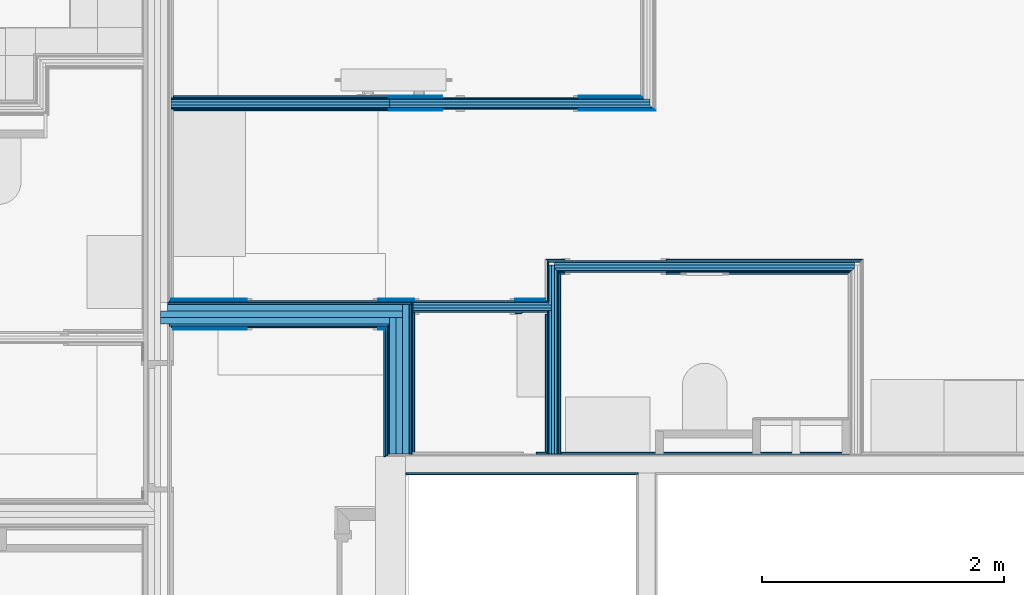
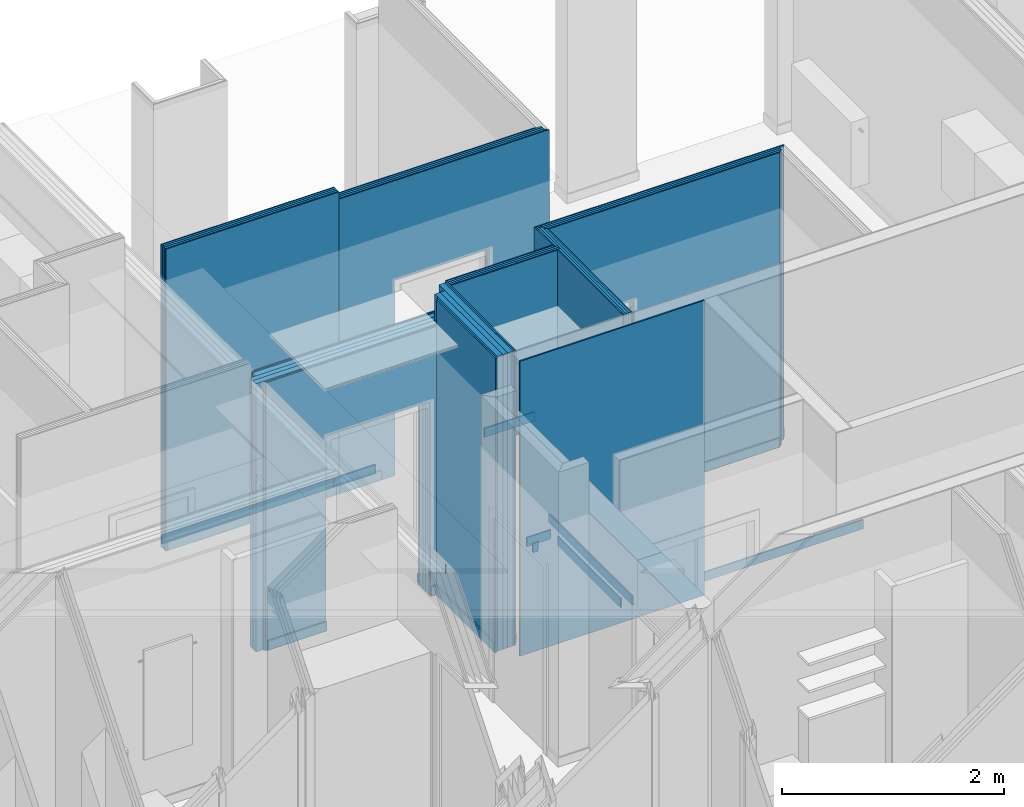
# One storey, part 19 of 65: 56 building element parts, 5 openings, 8 elements without a shape of their own.
"""IFC2X3 building model written with IfcOpenShell, lengths in metres."""

from ifc_helpers import new_model, entity, si_unit, converted_unit, derived_unit, money_unit, direction, frame, frame_2d, origin_with_axes, place, context, subcontext, project, spatial, polyline, rectangle, outline, extrude, material, type_object, element, aggregate, save


model = new_model("IFC2X3")

# Units and contexts
model_context = context("Model", 3, precision=1e-05, world=origin_with_axes(), true_north=direction((0.0, 1.0)))
body_context = subcontext(model_context, "Body", "Model", "MODEL_VIEW", scale=1.0)
ifc_project = project(units=[si_unit("LENGTHUNIT", "METRE"), si_unit("AREAUNIT", "SQUARE_METRE"), si_unit("VOLUMEUNIT", "CUBIC_METRE"), si_unit("ABSORBEDDOSEUNIT", "GRAY"), si_unit("AMOUNTOFSUBSTANCEUNIT", "MOLE"), si_unit("DOSEEQUIVALENTUNIT", "SIEVERT"), si_unit("ELECTRICCAPACITANCEUNIT", "FARAD"), si_unit("ELECTRICCHARGEUNIT", "COULOMB"), si_unit("ELECTRICCONDUCTANCEUNIT", "SIEMENS"), si_unit("ELECTRICCURRENTUNIT", "AMPERE"), si_unit("ELECTRICRESISTANCEUNIT", "OHM"), si_unit("ELECTRICVOLTAGEUNIT", "VOLT"), si_unit("ENERGYUNIT", "JOULE"), si_unit("FORCEUNIT", "NEWTON"), si_unit("FREQUENCYUNIT", "HERTZ"), si_unit("ILLUMINANCEUNIT", "LUX"), si_unit("INDUCTANCEUNIT", "HENRY"), si_unit("LUMINOUSFLUXUNIT", "LUMEN"), si_unit("LUMINOUSINTENSITYUNIT", "CANDELA"), si_unit("MAGNETICFLUXDENSITYUNIT", "TESLA"), si_unit("MAGNETICFLUXUNIT", "WEBER"), si_unit("MASSUNIT", "GRAM"), converted_unit("PLANEANGLEUNIT", "degree", entity("IfcReal", 0.0174532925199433), si_unit("PLANEANGLEUNIT", "RADIAN"), dimensions=[0, 0, 0, 0, 0, 0, 0]), si_unit("POWERUNIT", "WATT"), si_unit("PRESSUREUNIT", "PASCAL"), si_unit("RADIOACTIVITYUNIT", "BECQUEREL"), si_unit("SOLIDANGLEUNIT", "STERADIAN"), si_unit("THERMODYNAMICTEMPERATUREUNIT", "KELVIN"), si_unit("TIMEUNIT", "SECOND"), derived_unit("ACCELERATIONUNIT", [(si_unit("LENGTHUNIT", "METRE"), 1), (si_unit("TIMEUNIT", "SECOND"), -2)]), derived_unit("ANGULARVELOCITYUNIT", [(converted_unit("PLANEANGLEUNIT", "degree", entity("IfcReal", 0.0174532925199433), si_unit("PLANEANGLEUNIT", "RADIAN"), dimensions=[0, 0, 0, 0, 0, 0, 0]), 1), (si_unit("TIMEUNIT", "SECOND"), -1)]), derived_unit("CURVATUREUNIT", [(converted_unit("PLANEANGLEUNIT", "degree", entity("IfcReal", 0.0174532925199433), si_unit("PLANEANGLEUNIT", "RADIAN"), dimensions=[0, 0, 0, 0, 0, 0, 0]), 1), (si_unit("LENGTHUNIT", "METRE"), -1)]), derived_unit("DYNAMICVISCOSITYUNIT", [(si_unit("PRESSUREUNIT", "PASCAL"), 1), (si_unit("TIMEUNIT", "SECOND"), 1)]), derived_unit("HEATFLUXDENSITYUNIT", [(si_unit("POWERUNIT", "WATT"), 1), (si_unit("LENGTHUNIT", "METRE"), -2)]), derived_unit("HEATINGVALUEUNIT", [(si_unit("ENERGYUNIT", "JOULE"), 1), (si_unit("MASSUNIT", "GRAM"), -1)]), derived_unit("INTEGERCOUNTRATEUNIT", [(si_unit("TIMEUNIT", "SECOND"), -1)]), derived_unit("IONCONCENTRATIONUNIT", [(si_unit("MASSUNIT", "GRAM"), 1), (si_unit("VOLUMEUNIT", "CUBIC_METRE"), -1)]), derived_unit("ISOTHERMALMOISTURECAPACITYUNIT", [(si_unit("VOLUMEUNIT", "CUBIC_METRE"), 1), (si_unit("MASSUNIT", "GRAM"), -1)]), derived_unit("KINEMATICVISCOSITYUNIT", [(si_unit("AREAUNIT", "SQUARE_METRE"), 1), (si_unit("TIMEUNIT", "SECOND"), -1)]), derived_unit("LINEARFORCEUNIT", [(si_unit("FORCEUNIT", "NEWTON"), 1), (si_unit("LENGTHUNIT", "METRE"), -1)]), derived_unit("LINEARMOMENTUNIT", [(si_unit("FORCEUNIT", "NEWTON"), 1), (si_unit("LENGTHUNIT", "METRE"), -1)]), derived_unit("LINEARSTIFFNESSUNIT", [(si_unit("FORCEUNIT", "NEWTON"), 1), (si_unit("LENGTHUNIT", "METRE"), -1)]), derived_unit("LINEARVELOCITYUNIT", [(si_unit("LENGTHUNIT", "METRE"), 1), (si_unit("TIMEUNIT", "SECOND"), -1)]), derived_unit("LUMINOUSINTENSITYDISTRIBUTIONUNIT", [(si_unit("LUMINOUSINTENSITYUNIT", "CANDELA"), 1), (si_unit("LUMINOUSFLUXUNIT", "LUMEN"), -1)]), derived_unit("MASSDENSITYUNIT", [(si_unit("MASSUNIT", "GRAM"), 1), (si_unit("VOLUMEUNIT", "CUBIC_METRE"), -1)]), derived_unit("MASSFLOWRATEUNIT", [(si_unit("MASSUNIT", "GRAM"), 1), (si_unit("TIMEUNIT", "SECOND"), -1)]), derived_unit("MASSPERLENGTHUNIT", [(si_unit("MASSUNIT", "GRAM"), 1), (si_unit("LENGTHUNIT", "METRE"), -1)]), derived_unit("MODULUSOFELASTICITYUNIT", [(si_unit("FORCEUNIT", "NEWTON"), 1), (si_unit("AREAUNIT", "SQUARE_METRE"), -1)]), derived_unit("MODULUSOFLINEARSUBGRADEREACTIONUNIT", [(si_unit("FORCEUNIT", "NEWTON"), 1), (si_unit("LENGTHUNIT", "METRE"), -2)]), derived_unit("MODULUSOFROTATIONALSUBGRADEREACTIONUNIT", [(si_unit("FORCEUNIT", "NEWTON"), 1), (si_unit("LENGTHUNIT", "METRE"), 1)]), derived_unit("MODULUSOFSUBGRADEREACTIONUNIT", [(si_unit("FORCEUNIT", "NEWTON"), 1), (si_unit("VOLUMEUNIT", "CUBIC_METRE"), -1)]), derived_unit("MOISTUREDIFFUSIVITYUNIT", [(si_unit("VOLUMEUNIT", "CUBIC_METRE"), 1), (si_unit("TIMEUNIT", "SECOND"), -1)]), derived_unit("MOLECULARWEIGHTUNIT", [(si_unit("MASSUNIT", "GRAM"), 1), (si_unit("AMOUNTOFSUBSTANCEUNIT", "MOLE"), -1)]), derived_unit("PLANARFORCEUNIT", [(si_unit("FORCEUNIT", "NEWTON"), 1), (si_unit("LENGTHUNIT", "METRE"), -2)]), derived_unit("ROTATIONALFREQUENCYUNIT", [(si_unit("TIMEUNIT", "SECOND"), -1)]), derived_unit("ROTATIONALMASSUNIT", [(si_unit("MASSUNIT", "GRAM"), 1), (si_unit("LENGTHUNIT", "METRE"), 2)]), derived_unit("ROTATIONALSTIFFNESSUNIT", [(si_unit("FORCEUNIT", "NEWTON"), 1), (si_unit("LENGTHUNIT", "METRE"), 1), (converted_unit("PLANEANGLEUNIT", "degree", entity("IfcReal", 0.0174532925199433), si_unit("PLANEANGLEUNIT", "RADIAN"), dimensions=[0, 0, 0, 0, 0, 0, 0]), -1)]), derived_unit("SECTIONAREAINTEGRALUNIT", [(si_unit("LENGTHUNIT", "METRE"), 5)]), derived_unit("SECTIONMODULUSUNIT", [(si_unit("LENGTHUNIT", "METRE"), 3)]), derived_unit("SHEARMODULUSUNIT", [(si_unit("FORCEUNIT", "NEWTON"), 1), (si_unit("AREAUNIT", "SQUARE_METRE"), -1)]), derived_unit("SOUNDPOWERUNIT", [(si_unit("ENERGYUNIT", "JOULE"), 1), (si_unit("TIMEUNIT", "SECOND"), -1)]), derived_unit("SPECIFICHEATCAPACITYUNIT", [(si_unit("FORCEUNIT", "NEWTON"), 1), (si_unit("MASSUNIT", "GRAM"), -1), (si_unit("THERMODYNAMICTEMPERATUREUNIT", "KELVIN"), -1)]), derived_unit("TEMPERATUREGRADIENTUNIT", [(si_unit("THERMODYNAMICTEMPERATUREUNIT", "KELVIN"), 1), (si_unit("LENGTHUNIT", "METRE"), -1)]), derived_unit("THERMALADMITTANCEUNIT", [(si_unit("POWERUNIT", "WATT"), 1), (si_unit("AREAUNIT", "SQUARE_METRE"), -1), (si_unit("THERMODYNAMICTEMPERATUREUNIT", "KELVIN"), -1)]), derived_unit("THERMALCONDUCTANCEUNIT", [(si_unit("POWERUNIT", "WATT"), 1), (si_unit("LENGTHUNIT", "METRE"), -1), (si_unit("THERMODYNAMICTEMPERATUREUNIT", "KELVIN"), -1)]), derived_unit("THERMALEXPANSIONCOEFFICIENTUNIT", [(si_unit("THERMODYNAMICTEMPERATUREUNIT", "KELVIN"), -1)]), derived_unit("THERMALRESISTANCEUNIT", [(si_unit("AREAUNIT", "SQUARE_METRE"), 1), (si_unit("POWERUNIT", "WATT"), -1)]), derived_unit("THERMALTRANSMITTANCEUNIT", [(si_unit("POWERUNIT", "WATT"), 1), (si_unit("AREAUNIT", "SQUARE_METRE"), -1), (si_unit("THERMODYNAMICTEMPERATUREUNIT", "KELVIN"), -1)]), derived_unit("TORQUEUNIT", [(si_unit("FORCEUNIT", "NEWTON"), 1), (si_unit("LENGTHUNIT", "METRE"), 1)]), derived_unit("VAPORPERMEABILITYUNIT", [(si_unit("MASSUNIT", "GRAM"), 1), (si_unit("TIMEUNIT", "SECOND"), -1)]), derived_unit("VOLUMETRICFLOWRATEUNIT", [(si_unit("VOLUMEUNIT", "CUBIC_METRE"), 1), (si_unit("TIMEUNIT", "SECOND"), -1)]), derived_unit("WARPINGCONSTANTUNIT", [(si_unit("LENGTHUNIT", "METRE"), 6)]), derived_unit("WARPINGMOMENTUNIT", [(si_unit("FORCEUNIT", "NEWTON"), 1), (si_unit("LENGTHUNIT", "METRE"), 2)]), money_unit("GBP")], contexts=[model_context])

# Site, building, storey
site_placement = place(None, origin_with_axes())
site = spatial("IfcSite", under=ifc_project, at=site_placement, Name="Site", CompositionType="ELEMENT")
building_placement = place(site_placement, origin_with_axes())
building = spatial("IfcBuilding", under=site, at=building_placement, Name="Building01", CompositionType="ELEMENT")
storey_placement = place(building_placement, frame((0.0, 0.0, 8.64), z_axis=(0.0, 0.0, 1.0), x_axis=(1.0, 0.0, 0.0)))
storey = spatial("IfcBuildingStorey", under=building, at=storey_placement, Name="2F", CompositionType="ELEMENT", Elevation=8.64)

# Wall, opening, building element parts
wall_type_1 = type_object("IfcWallType", Name="SHE_A-Walls_Type05a_Partition_95mm_tall", PredefinedType="NOTDEFINED")
wall_1_placement = place(storey_placement, frame((10.453871, 10.355, 0.0), z_axis=(0.0, 0.0, 1.0), x_axis=(1.0, 0.0, 0.0)))
wall_1 = element("IfcWall", 1, at=wall_1_placement, inside=storey, type_object=wall_type_1, Name="5A", ObjectType="SHE_A-Walls_Type05a_Partition_95mm_tall")
opening_1_placement = place(wall_1_placement, frame((0.086065, -0.05, 0.0), z_axis=(0.0, 0.0, 1.0), x_axis=(1.0, 0.0, 0.0)))
element("IfcOpeningElement", 2, at=opening_1_placement, cuts=wall_1, Name="Opening", ObjectType="Opening", context=body_context, shape_type="SweptSolid", body=[
    extrude(rectangle(XDim=0.834, YDim=2.142, at=frame_2d((-0.417, 1.071), x_axis=(1.0, 0.0))), frame((0.0, 0.0, 0.0), z_axis=(0.0, 1.0, 0.0), x_axis=(-1.0, 0.0, 0.0)), (0.0, 0.0, 1.0), 0.125),
])
ifc_material_1 = material(Name="A_BSUK_Walls_Timber")
placement_1 = place(wall_1_placement, origin_with_axes())
building_element_part_1 = element("IfcBuildingElementPart", 3, at=placement_1, material=ifc_material_1, Name="1", context=body_context, shape_type="SweptSolid", body=[
    extrude(outline(polyline([(2.439714, -0.035), (0.035, -0.035), (0.05, -0.05), (2.424714, -0.05), (2.439714, -0.035)])), frame((0.0, 0.0, 0.015), z_axis=(0.0, 0.0, 1.0), x_axis=(1.0, 0.0, 0.0)), (0.0, 0.0, 1.0), 0.1),
])
ifc_material_2 = material(Name="A_BSUK_WallInternal_Finishes_Plasterboard")
building_element_part_2 = element("IfcBuildingElementPart", 4, at=placement_1, material=ifc_material_2, Name="2", context=body_context, shape_type="SweptSolid", body=[
    extrude(outline(polyline([(2.451714, -0.023), (0.023, -0.023), (0.035, -0.035), (2.439714, -0.035), (2.451714, -0.023)])), origin_with_axes(), (0.0, 0.0, 1.0), 3.24),
])
ifc_material_3 = material(Name="Air Cavity")
building_element_part_3 = element("IfcBuildingElementPart", 5, at=placement_1, material=ifc_material_3, Name="3", context=body_context, shape_type="SweptSolid", body=[
    extrude(outline(polyline([(2.474714, 0.0), (0.0, 0.0), (0.023, -0.023), (2.451714, -0.023), (2.474714, 0.0)])), origin_with_axes(), (0.0, 0.0, 1.0), 3.24),
])
ifc_material_4 = material(Name="A_BSUK_Insulation")
building_element_part_4 = element("IfcBuildingElementPart", 6, at=placement_1, material=ifc_material_4, Name="4", context=body_context, shape_type="SweptSolid", body=[
    extrude(rectangle(XDim=2.474714, YDim=0.025, at=frame_2d((1.237357, 0.0125), x_axis=(-1.0, 0.0))), origin_with_axes(), (0.0, 0.0, 1.0), 3.24),
])
building_element_part_5 = element("IfcBuildingElementPart", 7, at=placement_1, material=ifc_material_3, Name="5", context=body_context, shape_type="SweptSolid", body=[
    extrude(rectangle(XDim=2.474714, YDim=0.023, at=frame_2d((1.237357, 0.0365), x_axis=(-1.0, 0.0))), origin_with_axes(), (0.0, 0.0, 1.0), 3.24),
])
building_element_part_6 = element("IfcBuildingElementPart", 8, at=placement_1, material=ifc_material_2, Name="6", context=body_context, shape_type="SweptSolid", body=[
    extrude(outline(polyline([(2.534714, 0.06), (-0.06, 0.06), (-0.048, 0.048), (2.522714, 0.048), (2.534714, 0.06)])), origin_with_axes(), (0.0, 0.0, 1.0), 3.24),
])
building_element_part_7 = element("IfcBuildingElementPart", 9, at=placement_1, material=ifc_material_1, Name="7", context=body_context, shape_type="SweptSolid", body=[
    extrude(outline(polyline([(2.549714, 0.075), (-0.075, 0.075), (-0.06, 0.06), (2.534714, 0.06), (2.549714, 0.075)])), frame((0.0, 0.0, 0.015), z_axis=(0.0, 0.0, 1.0), x_axis=(1.0, 0.0, 0.0)), (0.0, 0.0, 1.0), 0.1),
])
aggregate(wall_1, [building_element_part_1, building_element_part_2, building_element_part_3, building_element_part_4, building_element_part_5, building_element_part_6, building_element_part_7])

# Wall, openings, building element parts
wall_type_2 = type_object("IfcWallType", Name="SHE_A-Walls_Type01c_Partywall_225mm_twin_tall", PredefinedType="NOTDEFINED")
wall_2_placement = place(storey_placement, frame((9.197, 9.949704, 0.0), z_axis=(0.0, 0.0, 1.0), x_axis=(-1.0, 0.0, 0.0)))
wall_2 = element("IfcWall", 10, at=wall_2_placement, inside=storey, type_object=wall_type_2, Name="1C", ObjectType="SHE_A-Walls_Type01c_Partywall_225mm_twin_tall")
opening_2_placement = place(wall_2_placement, frame((-0.931871, -0.153, 0.0), z_axis=(0.0, 0.0, 1.0), x_axis=(1.0, 0.0, 0.0)))
element("IfcOpeningElement", 11, at=opening_2_placement, cuts=wall_2, Name="Opening", ObjectType="Recess", context=body_context, shape_type="SweptSolid", body=[
    extrude(rectangle(XDim=2.142, YDim=0.834, at=frame_2d((-0.417, 1.071), x_axis=(0.0, -1.0))), frame((0.0, 0.0, 0.0), z_axis=(0.0, 1.0, 0.0), x_axis=(-1.0, 0.0, 0.0)), (0.0, 0.0, 1.0), 0.015),
])
opening_3_placement = place(wall_2_placement, frame((0.200331, -0.153, 0.0), z_axis=(0.0, 0.0, 1.0), x_axis=(1.0, 0.0, 0.0)))
element("IfcOpeningElement", 12, at=opening_3_placement, cuts=wall_2, Name="Opening", ObjectType="Opening", context=body_context, shape_type="SweptSolid", body=[
    extrude(rectangle(XDim=1.084, YDim=2.142, at=frame_2d((-0.542, 1.071), x_axis=(-1.0, 0.0))), frame((0.0, 0.0, 0.0), z_axis=(0.0, 1.0, 0.0), x_axis=(-1.0, 0.0, 0.0)), (0.0, 0.0, 1.0), 0.255),
])
placement_2 = place(wall_2_placement, origin_with_axes())
building_element_part_8 = element("IfcBuildingElementPart", 13, at=placement_2, material=ifc_material_1, Name="1", context=body_context, shape_type="SweptSolid", body=[
    extrude(outline(polyline([(1.907331, -0.138), (-0.088, -0.138), (-0.103, -0.153), (1.907331, -0.153), (1.907331, -0.138)])), frame((0.0, 0.0, 0.015), z_axis=(0.0, 0.0, 1.0), x_axis=(1.0, 0.0, 0.0)), (0.0, 0.0, 1.0), 0.1),
])
building_element_part_9 = element("IfcBuildingElementPart", 14, at=placement_2, material=ifc_material_2, Name="2", context=body_context, shape_type="SweptSolid", body=[
    extrude(rectangle(XDim=2.010331, YDim=0.015, at=frame_2d((0.917166, -0.1305), x_axis=(-1.0, 0.0))), origin_with_axes(), (0.0, 0.0, 1.0), 2.95),
])
building_element_part_10 = element("IfcBuildingElementPart", 15, at=placement_2, material=ifc_material_2, Name="3", context=body_context, shape_type="SweptSolid", body=[
    extrude(rectangle(XDim=2.010331, YDim=0.015, at=frame_2d((0.932166, -0.1155), x_axis=(-1.0, 0.0))), origin_with_axes(), (0.0, 0.0, 1.0), 2.95),
])
building_element_part_11 = element("IfcBuildingElementPart", 16, at=placement_2, material=ifc_material_3, Name="4", context=body_context, shape_type="SweptSolid", body=[
    extrude(rectangle(XDim=2.010331, YDim=0.058, at=frame_2d((0.932166, -0.079), x_axis=(-1.0, 0.0))), origin_with_axes(), (0.0, 0.0, 1.0), 2.95),
])
building_element_part_12 = element("IfcBuildingElementPart", 17, at=placement_2, material=ifc_material_4, Name="5", context=body_context, shape_type="SweptSolid", body=[
    extrude(rectangle(XDim=1.995331, YDim=0.05, at=frame_2d((0.997666, -0.025), x_axis=(-1.0, 0.0))), origin_with_axes(), (0.0, 0.0, 1.0), 2.95),
])
building_element_part_13 = element("IfcBuildingElementPart", 18, at=placement_2, material=ifc_material_3, Name="6", context=body_context, shape_type="SweptSolid", body=[
    extrude(rectangle(XDim=1.995331, YDim=0.057, at=frame_2d((0.997666, 0.0285), x_axis=(-1.0, 0.0))), origin_with_axes(), (0.0, 0.0, 1.0), 2.95),
])
building_element_part_14 = element("IfcBuildingElementPart", 19, at=placement_2, material=ifc_material_2, Name="7", context=body_context, shape_type="SweptSolid", body=[
    extrude(outline(polyline([(1.922331, 0.072), (0.122, 0.072), (0.107, 0.057), (1.922331, 0.057), (1.922331, 0.072)])), origin_with_axes(), (0.0, 0.0, 1.0), 2.95),
])
building_element_part_15 = element("IfcBuildingElementPart", 20, at=placement_2, material=ifc_material_2, Name="8", context=body_context, shape_type="SweptSolid", body=[
    extrude(outline(polyline([(1.907331, 0.087), (0.137, 0.087), (0.122, 0.072), (1.907331, 0.072), (1.907331, 0.087)])), origin_with_axes(), (0.0, 0.0, 1.0), 2.95),
])
building_element_part_16 = element("IfcBuildingElementPart", 21, at=placement_2, material=ifc_material_1, Name="9", context=body_context, shape_type="SweptSolid", body=[
    extrude(outline(polyline([(1.892331, 0.102), (0.152, 0.102), (0.137, 0.087), (1.892331, 0.087), (1.892331, 0.102)])), frame((0.0, 0.0, 0.015), z_axis=(0.0, 0.0, 1.0), x_axis=(1.0, 0.0, 0.0)), (0.0, 0.0, 1.0), 0.1),
])
aggregate(wall_2, [building_element_part_8, building_element_part_9, building_element_part_10, building_element_part_11, building_element_part_12, building_element_part_13, building_element_part_14, building_element_part_15, building_element_part_16])

# Wall, building element parts
wall_3_placement = place(storey_placement, frame((9.09, 11.703124, 0.0), z_axis=(0.0, 0.0, 1.0), x_axis=(-1.0, 0.0, 0.0)))
wall_3 = element("IfcWall", 22, at=wall_3_placement, inside=storey, type_object=wall_type_1, Name="5A", ObjectType="SHE_A-Walls_Type05a_Partition_95mm_tall")
placement_3 = place(wall_3_placement, origin_with_axes())
building_element_part_17 = element("IfcBuildingElementPart", 23, at=placement_3, material=ifc_material_1, Name="1", context=body_context, shape_type="SweptSolid", body=[
    extrude(rectangle(XDim=1.785331, YDim=0.015, at=frame_2d((0.892666, -0.0675), x_axis=(-1.0, 0.0))), frame((0.0, 0.0, 0.015), z_axis=(0.0, 0.0, 1.0), x_axis=(1.0, 0.0, 0.0)), (0.0, 0.0, 1.0), 0.1),
])
building_element_part_18 = element("IfcBuildingElementPart", 24, at=placement_3, material=ifc_material_2, Name="2", context=body_context, shape_type="SweptSolid", body=[
    extrude(rectangle(XDim=1.800331, YDim=0.012, at=frame_2d((0.900166, -0.054), x_axis=(1.0, 0.0))), origin_with_axes(), (0.0, 0.0, 1.0), 3.32),
])
building_element_part_19 = element("IfcBuildingElementPart", 25, at=placement_3, material=ifc_material_3, Name="3", context=body_context, shape_type="SweptSolid", body=[
    extrude(rectangle(XDim=1.800331, YDim=0.023, at=frame_2d((0.900166, -0.0365), x_axis=(1.0, 0.0))), origin_with_axes(), (0.0, 0.0, 1.0), 3.32),
])
building_element_part_20 = element("IfcBuildingElementPart", 26, at=placement_3, material=ifc_material_4, Name="4", context=body_context, shape_type="SweptSolid", body=[
    extrude(rectangle(XDim=1.800331, YDim=0.025, at=frame_2d((0.900166, -0.0125), x_axis=(1.0, 0.0))), origin_with_axes(), (0.0, 0.0, 1.0), 3.32),
])
building_element_part_21 = element("IfcBuildingElementPart", 27, at=placement_3, material=ifc_material_3, Name="5", context=body_context, shape_type="SweptSolid", body=[
    extrude(rectangle(XDim=1.800331, YDim=0.023, at=frame_2d((0.900166, 0.0115), x_axis=(1.0, 0.0))), origin_with_axes(), (0.0, 0.0, 1.0), 3.32),
])
building_element_part_22 = element("IfcBuildingElementPart", 28, at=placement_3, material=ifc_material_2, Name="6", context=body_context, shape_type="SweptSolid", body=[
    extrude(rectangle(XDim=1.800331, YDim=0.012, at=frame_2d((0.900166, 0.029), x_axis=(1.0, 0.0))), origin_with_axes(), (0.0, 0.0, 1.0), 3.32),
])
building_element_part_23 = element("IfcBuildingElementPart", 29, at=placement_3, material=ifc_material_1, Name="7", context=body_context, shape_type="SweptSolid", body=[
    extrude(rectangle(XDim=1.785331, YDim=0.015, at=frame_2d((0.892666, 0.0425), x_axis=(-1.0, 0.0))), frame((0.0, 0.0, 0.015), z_axis=(0.0, 0.0, 1.0), x_axis=(1.0, 0.0, 0.0)), (0.0, 0.0, 1.0), 0.1),
])
aggregate(wall_3, [building_element_part_17, building_element_part_18, building_element_part_19, building_element_part_20, building_element_part_21, building_element_part_22, building_element_part_23])

# Wall, opening, building element parts
wall_4_placement = place(storey_placement, frame((9.09, 11.703124, 0.0), z_axis=(0.0, 0.0, 1.0), x_axis=(1.0, 0.0, 0.0)))
wall_4 = element("IfcWall", 30, at=wall_4_placement, inside=storey, type_object=wall_type_1, Name="5A", ObjectType="SHE_A-Walls_Type05a_Partition_95mm_tall")
opening_4_placement = place(wall_4_placement, frame((0.579, -0.05, -0.015), z_axis=(0.0, 0.0, 1.0), x_axis=(1.0, 0.0, 0.0)))
element("IfcOpeningElement", 31, at=opening_4_placement, cuts=wall_4, Name="Opening", ObjectType="Opening", context=body_context, shape_type="SweptSolid", body=[
    extrude(outline(polyline([(-0.042, 0.0), (-0.042, 0.015), (0.0, 0.015), (0.0, 2.157), (-0.984, 2.157), (-0.984, 0.015), (-0.840883, 0.015), (-0.840883, 0.0), (-0.042, 0.0)])), frame((0.0, 0.0, 0.0), z_axis=(0.0, 1.0, 0.0), x_axis=(-1.0, 0.0, 0.0)), (0.0, 0.0, 1.0), 0.125),
    extrude(outline(polyline([(-0.942, 0.015), (-0.942, 0.0), (-0.042, 0.0), (-0.042, 0.015), (0.0, 0.015), (0.0, 2.157), (-0.984, 2.157), (-0.984, 0.015), (-0.942, 0.015)])), frame((0.0, 0.015, 0.0), z_axis=(0.0, 1.0, 0.0), x_axis=(-1.0, 0.0, 0.0)), (0.0, 0.0, 1.0), 0.012),
    extrude(outline(polyline([(0.0, 2.142), (0.0, 2.157), (-0.984, 2.157), (-0.984, 0.015), (-0.840883, 0.015), (-0.840883, 0.0), (0.143117, 0.0), (0.143117, 2.142), (0.0, 2.142)])), frame((0.0, 0.0, 0.0), z_axis=(0.0, 1.0, 0.0), x_axis=(-1.0, 0.0, 0.0)), (0.0, 0.0, 1.0), 0.015),
    extrude(outline(polyline([(-0.942, 0.015), (-0.942, 0.0), (-0.042, 0.0), (-0.042, 0.015), (0.0, 0.015), (0.0, 2.157), (-0.984, 2.157), (-0.984, 0.015), (-0.942, 0.015)])), frame((0.0, 0.027, 0.0), z_axis=(0.0, 1.0, 0.0), x_axis=(-1.0, 0.0, 0.0)), (0.0, 0.0, 1.0), 0.023),
    extrude(outline(polyline([(-0.942, 0.015), (-0.942, 0.0), (-0.042, 0.0), (-0.042, 0.015), (0.0, 0.015), (0.0, 2.157), (-0.984, 2.157), (-0.984, 0.015), (-0.942, 0.015)])), frame((0.0, 0.05, 0.0), z_axis=(0.0, 1.0, 0.0), x_axis=(-1.0, 0.0, 0.0)), (0.0, 0.0, 1.0), 0.025),
    extrude(outline(polyline([(-0.942, 0.015), (-0.942, 0.0), (-0.042, 0.0), (-0.042, 0.015), (0.0, 0.015), (0.0, 2.157), (-0.984, 2.157), (-0.984, 0.015), (-0.942, 0.015)])), frame((0.0, 0.075, 0.0), z_axis=(0.0, 1.0, 0.0), x_axis=(-1.0, 0.0, 0.0)), (0.0, 0.0, 1.0), 0.023),
    extrude(outline(polyline([(-0.942, 0.015), (-0.942, 0.0), (-0.042, 0.0), (-0.042, 0.015), (0.0, 0.015), (0.0, 2.157), (-0.984, 2.157), (-0.984, 0.015), (-0.942, 0.015)])), frame((0.0, 0.098, 0.0), z_axis=(0.0, 1.0, 0.0), x_axis=(-1.0, 0.0, 0.0)), (0.0, 0.0, 1.0), 0.012),
    extrude(outline(polyline([(-0.840883, 0.015), (-0.840883, 0.0), (0.143117, 0.0), (0.143117, 2.142), (0.0, 2.142), (0.0, 2.157), (-0.984, 2.157), (-0.984, 0.015), (-0.840883, 0.015)])), frame((0.0, 0.11, 0.0), z_axis=(0.0, 1.0, 0.0), x_axis=(-1.0, 0.0, 0.0)), (0.0, 0.0, 1.0), 0.015),
])
placement_4 = place(wall_4_placement, origin_with_axes())
building_element_part_24 = element("IfcBuildingElementPart", 32, at=placement_4, material=ifc_material_1, Name="1", context=body_context, shape_type="SweptSolid", body=[
    extrude(outline(polyline([(2.185, -0.035), (0.0, -0.035), (0.0, -0.05), (2.2, -0.05), (2.185, -0.035)])), frame((0.0, 0.0, 0.015), z_axis=(0.0, 0.0, 1.0), x_axis=(1.0, 0.0, 0.0)), (0.0, 0.0, 1.0), 0.1),
])
building_element_part_25 = element("IfcBuildingElementPart", 33, at=placement_4, material=ifc_material_2, Name="2", context=body_context, shape_type="SweptSolid", body=[
    extrude(outline(polyline([(2.173, -0.023), (0.0, -0.023), (0.0, -0.035), (2.185, -0.035), (2.173, -0.023)])), origin_with_axes(), (0.0, 0.0, 1.0), 3.24),
])
building_element_part_26 = element("IfcBuildingElementPart", 34, at=placement_4, material=ifc_material_3, Name="3", context=body_context, shape_type="SweptSolid", body=[
    extrude(outline(polyline([(2.15, 0.0), (0.0, 0.0), (0.0, -0.023), (2.173, -0.023), (2.15, 0.0)])), origin_with_axes(), (0.0, 0.0, 1.0), 3.24),
])
building_element_part_27 = element("IfcBuildingElementPart", 35, at=placement_4, material=ifc_material_4, Name="4", context=body_context, shape_type="SweptSolid", body=[
    extrude(rectangle(XDim=2.15, YDim=0.025, at=frame_2d((1.075, 0.0125), x_axis=(-1.0, 0.0))), origin_with_axes(), (0.0, 0.0, 1.0), 3.24),
])
building_element_part_28 = element("IfcBuildingElementPart", 36, at=placement_4, material=ifc_material_3, Name="5", context=body_context, shape_type="SweptSolid", body=[
    extrude(rectangle(XDim=2.15, YDim=0.023, at=frame_2d((1.075, 0.0365), x_axis=(-1.0, 0.0))), origin_with_axes(), (0.0, 0.0, 1.0), 3.24),
])
building_element_part_29 = element("IfcBuildingElementPart", 37, at=placement_4, material=ifc_material_2, Name="6", context=body_context, shape_type="SweptSolid", body=[
    extrude(outline(polyline([(2.09, 0.06), (0.0, 0.06), (0.0, 0.048), (2.102, 0.048), (2.09, 0.06)])), origin_with_axes(), (0.0, 0.0, 1.0), 3.24),
])
building_element_part_30 = element("IfcBuildingElementPart", 38, at=placement_4, material=ifc_material_1, Name="7", context=body_context, shape_type="SweptSolid", body=[
    extrude(outline(polyline([(2.075, 0.075), (0.0, 0.075), (0.0, 0.06), (2.09, 0.06), (2.075, 0.075)])), frame((0.0, 0.0, 0.015), z_axis=(0.0, 0.0, 1.0), x_axis=(1.0, 0.0, 0.0)), (0.0, 0.0, 1.0), 0.1),
])
aggregate(wall_4, [building_element_part_24, building_element_part_25, building_element_part_26, building_element_part_27, building_element_part_28, building_element_part_29, building_element_part_30])

wall_5_placement = place(storey_placement, frame((10.428871, 10.052704, 0.0), z_axis=(0.0, 0.0, 1.0), x_axis=(-1.0, 0.0, 0.0)))
wall_5 = element("IfcWall", 39, at=wall_5_placement, inside=storey, type_object=wall_type_1, Name="5A", ObjectType="SHE_A-Walls_Type05a_Partition_95mm_tall")
opening_5_placement = place(wall_5_placement, frame((0.3, -0.05, 0.0), z_axis=(0.0, 0.0, 1.0), x_axis=(1.0, 0.0, 0.0)))
element("IfcOpeningElement", 40, at=opening_5_placement, cuts=wall_5, Name="Opening", ObjectType="Opening", context=body_context, shape_type="SweptSolid", body=[
    extrude(rectangle(XDim=0.834, YDim=2.142, at=frame_2d((-0.417, 1.071), x_axis=(1.0, 0.0))), frame((0.0, 0.0, 0.0), z_axis=(0.0, 1.0, 0.0), x_axis=(-1.0, 0.0, 0.0)), (0.0, 0.0, 1.0), 0.125),
])
placement_5 = place(wall_5_placement, origin_with_axes())
building_element_part_31 = element("IfcBuildingElementPart", 41, at=placement_5, material=ifc_material_1, Name="1", context=body_context, shape_type="SweptSolid", body=[
    extrude(rectangle(XDim=0.015, YDim=1.093871, at=frame_2d((0.596935, -0.0425), x_axis=(0.0, -1.0))), frame((0.0, 0.0, 0.015), z_axis=(0.0, 0.0, 1.0), x_axis=(1.0, 0.0, 0.0)), (0.0, 0.0, 1.0), 0.1),
])
building_element_part_32 = element("IfcBuildingElementPart", 42, at=placement_5, material=ifc_material_2, Name="2", context=body_context, shape_type="SweptSolid", body=[
    extrude(rectangle(XDim=1.108871, YDim=0.012, at=frame_2d((0.589435, -0.029), x_axis=(-1.0, 0.0))), origin_with_axes(), (0.0, 0.0, 1.0), 3.24),
])
building_element_part_33 = element("IfcBuildingElementPart", 43, at=placement_5, material=ifc_material_3, Name="3", context=body_context, shape_type="SweptSolid", body=[
    extrude(rectangle(XDim=1.108871, YDim=0.023, at=frame_2d((0.589435, -0.0115), x_axis=(-1.0, 0.0))), origin_with_axes(), (0.0, 0.0, 1.0), 3.24),
])
building_element_part_34 = element("IfcBuildingElementPart", 44, at=placement_5, material=ifc_material_4, Name="4", context=body_context, shape_type="SweptSolid", body=[
    extrude(rectangle(XDim=1.143871, YDim=0.025, at=frame_2d((0.571935, 0.0125), x_axis=(-1.0, 0.0))), origin_with_axes(), (0.0, 0.0, 1.0), 3.24),
])
building_element_part_35 = element("IfcBuildingElementPart", 45, at=placement_5, material=ifc_material_3, Name="5", context=body_context, shape_type="SweptSolid", body=[
    extrude(rectangle(XDim=1.143871, YDim=0.023, at=frame_2d((0.571935, 0.0365), x_axis=(-1.0, 0.0))), origin_with_axes(), (0.0, 0.0, 1.0), 3.24),
])
building_element_part_36 = element("IfcBuildingElementPart", 46, at=placement_5, material=ifc_material_2, Name="6", context=body_context, shape_type="SweptSolid", body=[
    extrude(rectangle(XDim=1.108871, YDim=0.012, at=frame_2d((0.589435, 0.054), x_axis=(-1.0, 0.0))), origin_with_axes(), (0.0, 0.0, 1.0), 3.24),
])
building_element_part_37 = element("IfcBuildingElementPart", 47, at=placement_5, material=ifc_material_1, Name="7", context=body_context, shape_type="SweptSolid", body=[
    extrude(outline(polyline([(1.128871, 0.075), (0.25, 0.075), (0.235, 0.06), (1.128871, 0.06), (1.128871, 0.075)])), frame((0.0, 0.0, 0.015), z_axis=(0.0, 0.0, 1.0), x_axis=(1.0, 0.0, 0.0)), (0.0, 0.0, 1.0), 0.1),
])
aggregate(wall_5, [building_element_part_31, building_element_part_32, building_element_part_33, building_element_part_34, building_element_part_35, building_element_part_36, building_element_part_37])

# Wall, building element parts
wall_type_3 = type_object("IfcWallType", Name="SHE_A-Walls_Type03a_BlockworkWall_170mm", PredefinedType="NOTDEFINED")
wall_6_placement = place(storey_placement, frame((17.75, 8.805, 0.0), z_axis=(0.0, 0.0, 1.0), x_axis=(-1.0, 0.0, 0.0)))
wall_6 = element("IfcWall", 48, at=wall_6_placement, inside=storey, type_object=wall_type_3, Name="4B", ObjectType="SHE_A-Walls_Type03a_BlockworkWall_170mm")
placement_6 = place(wall_6_placement, origin_with_axes())
building_element_part_38 = element("IfcBuildingElementPart", 49, at=placement_6, material=ifc_material_1, Name="5", context=body_context, shape_type="SweptSolid", body=[
    extrude(rectangle(XDim=2.589714, YDim=0.015, at=frame_2d((6.151272, -0.0225), x_axis=(-1.0, 0.0))), frame((0.0, 0.0, 0.015), z_axis=(0.0, 0.0, 1.0), x_axis=(1.0, 0.0, 0.0)), (0.0, 0.0, 1.0), 0.1),
])
ifc_material_5 = material(Name="A_BSUK_WallInternal_Finishes_Plaster")
building_element_part_39 = element("IfcBuildingElementPart", 50, at=placement_6, material=ifc_material_5, Name="10", context=body_context, shape_type="SweptSolid", body=[
    extrude(rectangle(XDim=1.92, YDim=0.015, at=frame_2d((7.565, 0.1475), x_axis=(-1.0, 0.0))), origin_with_axes(), (0.0, 0.0, 1.0), 3.24),
])
aggregate(wall_6, [building_element_part_38, building_element_part_39])

wall_7_placement = place(storey_placement, frame((9.147, 8.82, 0.0), z_axis=(0.0, 0.0, 1.0), x_axis=(0.0, 1.0, 0.0)))
wall_7 = element("IfcWall", 51, at=wall_7_placement, inside=storey, type_object=wall_type_2, Name="1C", ObjectType="SHE_A-Walls_Type01c_Partywall_225mm_twin_tall")
placement_7 = place(wall_7_placement, origin_with_axes())
building_element_part_40 = element("IfcBuildingElementPart", 52, at=placement_7, material=ifc_material_1, Name="1", context=body_context, shape_type="SweptSolid", body=[
    extrude(rectangle(XDim=1.157704, YDim=0.015, at=frame_2d((0.593852, -0.1455), x_axis=(-1.0, 0.0))), frame((0.0, 0.0, 0.015), z_axis=(0.0, 0.0, 1.0), x_axis=(1.0, 0.0, 0.0)), (0.0, 0.0, 1.0), 0.1),
])
building_element_part_41 = element("IfcBuildingElementPart", 53, at=placement_7, material=ifc_material_2, Name="2", context=body_context, shape_type="SweptSolid", body=[
    extrude(rectangle(XDim=1.252704, YDim=0.015, at=frame_2d((0.626352, -0.1305), x_axis=(-1.0, 0.0))), origin_with_axes(), (0.0, 0.0, 1.0), 3.24),
])
building_element_part_42 = element("IfcBuildingElementPart", 54, at=placement_7, material=ifc_material_2, Name="3", context=body_context, shape_type="SweptSolid", body=[
    extrude(rectangle(XDim=1.237704, YDim=0.015, at=frame_2d((0.618852, -0.1155), x_axis=(-1.0, 0.0))), origin_with_axes(), (0.0, 0.0, 1.0), 3.24),
])
building_element_part_43 = element("IfcBuildingElementPart", 55, at=placement_7, material=ifc_material_3, Name="4", context=body_context, shape_type="SweptSolid", body=[
    extrude(rectangle(XDim=1.237704, YDim=0.058, at=frame_2d((0.618852, -0.079), x_axis=(-1.0, 0.0))), origin_with_axes(), (0.0, 0.0, 1.0), 3.24),
])
building_element_part_44 = element("IfcBuildingElementPart", 56, at=placement_7, material=ifc_material_4, Name="5", context=body_context, shape_type="SweptSolid", body=[
    extrude(rectangle(XDim=1.129704, YDim=0.05, at=frame_2d((0.564852, -0.025), x_axis=(-1.0, 0.0))), origin_with_axes(), (0.0, 0.0, 1.0), 3.24),
])
building_element_part_45 = element("IfcBuildingElementPart", 57, at=placement_7, material=ifc_material_3, Name="6", context=body_context, shape_type="SweptSolid", body=[
    extrude(rectangle(XDim=1.129704, YDim=0.057, at=frame_2d((0.564852, 0.0285), x_axis=(-1.0, 0.0))), origin_with_axes(), (0.0, 0.0, 1.0), 3.24),
])
building_element_part_46 = element("IfcBuildingElementPart", 58, at=placement_7, material=ifc_material_2, Name="7", context=body_context, shape_type="SweptSolid", body=[
    extrude(outline(polyline([(1.057704, 0.072), (0.0, 0.072), (0.0, 0.057), (1.072704, 0.057), (1.057704, 0.072)])), origin_with_axes(), (0.0, 0.0, 1.0), 3.24),
])
building_element_part_47 = element("IfcBuildingElementPart", 59, at=placement_7, material=ifc_material_2, Name="8", context=body_context, shape_type="SweptSolid", body=[
    extrude(outline(polyline([(1.042704, 0.087), (-0.015, 0.087), (-0.015, 0.072), (1.057704, 0.072), (1.042704, 0.087)])), origin_with_axes(), (0.0, 0.0, 1.0), 3.24),
])
building_element_part_48 = element("IfcBuildingElementPart", 60, at=placement_7, material=ifc_material_1, Name="9", context=body_context, shape_type="SweptSolid", body=[
    extrude(outline(polyline([(1.027704, 0.102), (-0.02, 0.102), (-0.02, 0.087), (1.042704, 0.087), (1.027704, 0.102)])), frame((0.0, 0.0, 0.015), z_axis=(0.0, 0.0, 1.0), x_axis=(1.0, 0.0, 0.0)), (0.0, 0.0, 1.0), 0.1),
])
aggregate(wall_7, [building_element_part_40, building_element_part_41, building_element_part_42, building_element_part_43, building_element_part_44, building_element_part_45, building_element_part_46, building_element_part_47, building_element_part_48])

wall_8_placement = place(storey_placement, frame((10.453871, 8.82, 0.0), z_axis=(0.0, 0.0, 1.0), x_axis=(0.0, 1.0, 0.0)))
wall_8 = element("IfcWall", 61, at=wall_8_placement, inside=storey, type_object=wall_type_1, Name="5A", ObjectType="SHE_A-Walls_Type05a_Partition_95mm_tall")
placement_8 = place(wall_8_placement, origin_with_axes())
building_element_part_49 = element("IfcBuildingElementPart", 62, at=placement_8, material=ifc_material_1, Name="1", context=body_context, shape_type="SweptSolid", body=[
    extrude(outline(polyline([(1.5, -0.035), (0.0, -0.035), (0.0, -0.05), (1.485, -0.05), (1.5, -0.035)])), frame((0.0, 0.0, 0.015), z_axis=(0.0, 0.0, 1.0), x_axis=(1.0, 0.0, 0.0)), (0.0, 0.0, 1.0), 0.1),
])
building_element_part_50 = element("IfcBuildingElementPart", 63, at=placement_8, material=ifc_material_2, Name="2", context=body_context, shape_type="SweptSolid", body=[
    extrude(outline(polyline([(1.512, -0.023), (0.0, -0.023), (0.0, -0.035), (1.5, -0.035), (1.512, -0.023)])), origin_with_axes(), (0.0, 0.0, 1.0), 3.24),
])
building_element_part_51 = element("IfcBuildingElementPart", 64, at=placement_8, material=ifc_material_3, Name="3", context=body_context, shape_type="SweptSolid", body=[
    extrude(outline(polyline([(1.535, 0.0), (0.0, 0.0), (0.0, -0.023), (1.512, -0.023), (1.535, 0.0)])), origin_with_axes(), (0.0, 0.0, 1.0), 3.24),
])
building_element_part_52 = element("IfcBuildingElementPart", 65, at=placement_8, material=ifc_material_4, Name="4", context=body_context, shape_type="SweptSolid", body=[
    extrude(rectangle(XDim=1.56, YDim=0.025, at=frame_2d((0.78, 0.0125), x_axis=(-1.0, 0.0))), origin_with_axes(), (0.0, 0.0, 1.0), 3.24),
])
building_element_part_53 = element("IfcBuildingElementPart", 66, at=placement_8, material=ifc_material_3, Name="5", context=body_context, shape_type="SweptSolid", body=[
    extrude(rectangle(XDim=1.56, YDim=0.023, at=frame_2d((0.78, 0.0365), x_axis=(-1.0, 0.0))), origin_with_axes(), (0.0, 0.0, 1.0), 3.24),
])
building_element_part_54 = element("IfcBuildingElementPart", 67, at=placement_8, material=ifc_material_2, Name="6", context=body_context, shape_type="SweptSolid", body=[
    extrude(rectangle(XDim=1.184704, YDim=0.012, at=frame_2d((0.592352, 0.054), x_axis=(-1.0, 0.0))), origin_with_axes(), (0.0, 0.0, 1.0), 3.24),
])
building_element_part_55 = element("IfcBuildingElementPart", 68, at=placement_8, material=ifc_material_2, Name="7", context=body_context, shape_type="SweptSolid", body=[
    extrude(outline(polyline([(1.595, 0.06), (1.255704, 0.06), (1.255704, 0.048), (1.583, 0.048), (1.595, 0.06)])), origin_with_axes(), (0.0, 0.0, 1.0), 3.24),
])
building_element_part_56 = element("IfcBuildingElementPart", 69, at=placement_8, material=ifc_material_1, Name="8", context=body_context, shape_type="SweptSolid", body=[
    extrude(rectangle(XDim=0.015, YDim=1.138704, at=frame_2d((0.584352, 0.0675), x_axis=(0.0, -1.0))), frame((0.0, 0.0, 0.015), z_axis=(0.0, 0.0, 1.0), x_axis=(1.0, 0.0, 0.0)), (0.0, 0.0, 1.0), 0.1),
])
aggregate(wall_8, [building_element_part_49, building_element_part_50, building_element_part_51, building_element_part_52, building_element_part_53, building_element_part_54, building_element_part_55, building_element_part_56])

save(model, "model.ifc")
